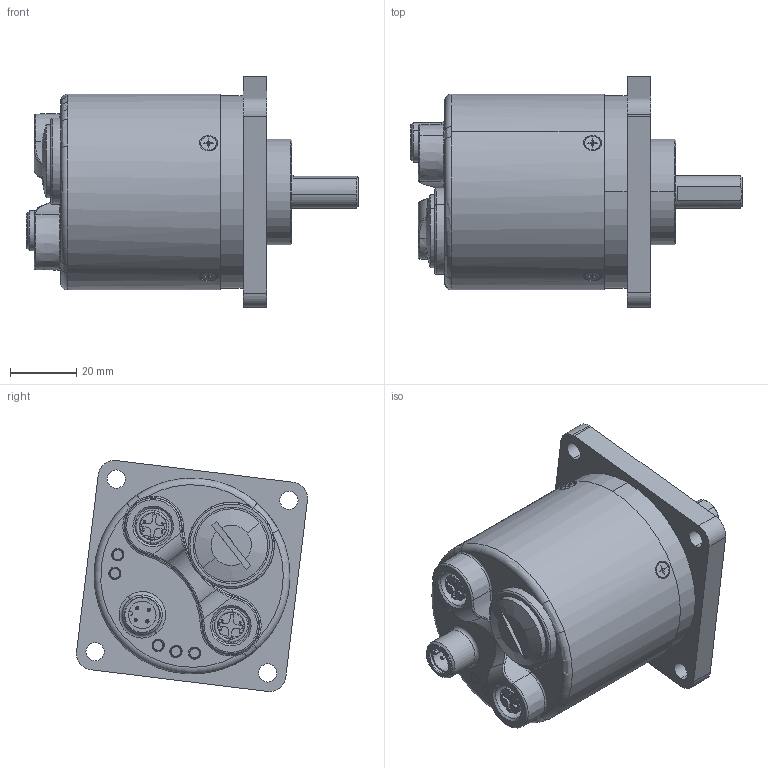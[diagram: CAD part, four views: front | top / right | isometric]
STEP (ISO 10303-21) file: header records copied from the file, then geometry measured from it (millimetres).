
FILE_DESCRIPTION (( 'STEP AP203' ), '1' );
FILE_NAME ('8.F5868.52AN.A222.STEP', '2016-01-28T11:11:20', ( 'LauferA' ), ( 'Microsoft' ), 'SwSTEP 2.0', 'SolidWorks 2013', '' );
FILE_SCHEMA (( 'CONFIG_CONTROL_DESIGN' ));
Length unit declared in the file: millimetre
Products named in the file (1): 8.F5868.52AN.A222
Bounding box: 100 x 69.61 x 69.61 mm (x, y, z)
Volume: 90927.6 mm3; surface area: 54258.9 mm2
Topology: 19 solids, 23 shells, 2761 faces, 7183 edges, 4438 vertices
Faces by surface type: plane 1020, cylinder 1006, bspline 285, cone 235, torus 179, sphere 36
Entity records: 91841 total; most frequent: CARTESIAN_POINT 25184, ORIENTED_EDGE 14212, DIRECTION 13940, EDGE_CURVE 7106, AXIS2_PLACEMENT_3D 5136, VERTEX_POINT 4438, VECTOR 3668, LINE 3668
